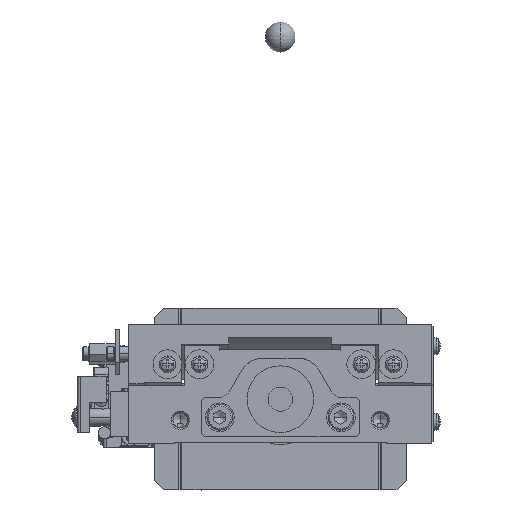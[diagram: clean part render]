
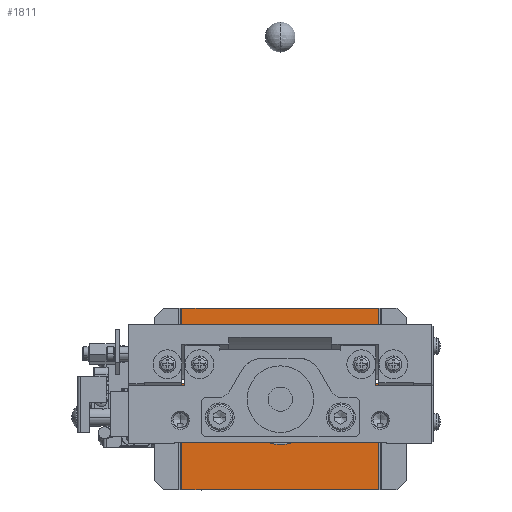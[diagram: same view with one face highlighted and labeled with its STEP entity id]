
A CAD part, left-side view. The second image highlights one B-rep face of the part: STEP entity #1811.
In plain terms, the highlighted planar face has unit normal (-1, 0, 0).
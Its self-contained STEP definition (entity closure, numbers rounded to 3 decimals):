
#1811=ADVANCED_FACE('',(#20746,#20747),#20745,.T.);
#20745=PLANE('',#51421);
#20746=FACE_OUTER_BOUND('',#51422,.T.);
#20747=FACE_BOUND('',#51423,.T.);
#51418=CARTESIAN_POINT('',(86.,-39.,50.5));
#51419=DIRECTION('',(-1.,0.,0.));
#51420=DIRECTION('',(0.,1.,0.));
#51421=AXIS2_PLACEMENT_3D('',#51418,#51419,#51420);
#51422=EDGE_LOOP('',(#73437,#73438,#73439,#73440,#73441,#73442,#73443,#73444,#73445,#73446,#73447,#73448,#73449,#73450,#73451,#73452));
#51423=EDGE_LOOP('',(#73453,#73454));
#73437=ORIENTED_EDGE('',*,*,#88030,.F.);
#73438=ORIENTED_EDGE('',*,*,#88109,.T.);
#73439=ORIENTED_EDGE('',*,*,#88110,.T.);
#73440=ORIENTED_EDGE('',*,*,#88028,.F.);
#73441=ORIENTED_EDGE('',*,*,#87069,.F.);
#73442=ORIENTED_EDGE('',*,*,#88046,.T.);
#73443=ORIENTED_EDGE('',*,*,#88111,.T.);
#73444=ORIENTED_EDGE('',*,*,#88112,.T.);
#73445=ORIENTED_EDGE('',*,*,#88048,.T.);
#73446=ORIENTED_EDGE('',*,*,#88113,.T.);
#73447=ORIENTED_EDGE('',*,*,#88114,.T.);
#73448=ORIENTED_EDGE('',*,*,#88041,.T.);
#73449=ORIENTED_EDGE('',*,*,#87035,.T.);
#73450=ORIENTED_EDGE('',*,*,#88115,.F.);
#73451=ORIENTED_EDGE('',*,*,#88116,.T.);
#73452=ORIENTED_EDGE('',*,*,#88117,.T.);
#73453=ORIENTED_EDGE('',*,*,#88118,.T.);
#73454=ORIENTED_EDGE('',*,*,#88119,.T.);
#87035=EDGE_CURVE('',#116568,#116561,#116569,.T.);
#87069=EDGE_CURVE('',#116793,#116800,#116801,.T.);
#88028=EDGE_CURVE('',#116800,#123228,#123229,.T.);
#88030=EDGE_CURVE('',#123235,#123242,#123243,.T.);
#88041=EDGE_CURVE('',#123313,#116568,#123314,.T.);
#88046=EDGE_CURVE('',#116793,#123345,#123346,.T.);
#88048=EDGE_CURVE('',#123359,#123352,#123360,.T.);
#88109=EDGE_CURVE('',#123235,#123764,#123765,.T.);
#88110=EDGE_CURVE('',#123764,#123228,#123771,.T.);
#88111=EDGE_CURVE('',#123345,#123777,#123778,.T.);
#88112=EDGE_CURVE('',#123777,#123359,#123784,.T.);
#88113=EDGE_CURVE('',#123352,#123790,#123791,.T.);
#88114=EDGE_CURVE('',#123790,#123313,#123797,.T.);
#88115=EDGE_CURVE('',#123803,#116561,#123804,.T.);
#88116=EDGE_CURVE('',#123803,#123810,#123811,.T.);
#88117=EDGE_CURVE('',#123810,#123242,#123817,.T.);
#88118=EDGE_CURVE('',#123823,#123824,#123825,.T.);
#88119=EDGE_CURVE('',#123824,#123823,#123831,.T.);
#116561=VERTEX_POINT('',#170172);
#116568=VERTEX_POINT('',#170176);
#116569=LINE('',#170177,#170178);
#116793=VERTEX_POINT('',#170304);
#116800=VERTEX_POINT('',#170308);
#116801=LINE('',#170309,#170310);
#123228=VERTEX_POINT('',#174197);
#123229=LINE('',#174198,#174199);
#123235=VERTEX_POINT('',#174201);
#123242=VERTEX_POINT('',#174205);
#123243=LINE('',#174206,#174207);
#123313=VERTEX_POINT('',#174243);
#123314=LINE('',#174244,#174245);
#123345=VERTEX_POINT('',#174260);
#123346=LINE('',#174261,#174262);
#123352=VERTEX_POINT('',#174264);
#123359=VERTEX_POINT('',#174268);
#123360=LINE('',#174269,#174270);
#123764=VERTEX_POINT('',#174550);
#123765=CIRCLE('',#174554,6.);
#123771=CIRCLE('',#174558,6.);
#123777=VERTEX_POINT('',#174559);
#123778=CIRCLE('',#174563,6.);
#123784=CIRCLE('',#174567,6.);
#123790=VERTEX_POINT('',#174568);
#123791=CIRCLE('',#174572,4.5);
#123797=CIRCLE('',#174576,4.5);
#123803=VERTEX_POINT('',#174577);
#123804=LINE('',#174578,#174579);
#123810=VERTEX_POINT('',#174581);
#123811=CIRCLE('',#174585,4.5);
#123817=CIRCLE('',#174589,4.5);
#123823=VERTEX_POINT('',#174590);
#123824=VERTEX_POINT('',#174591);
#123825=CIRCLE('',#174595,15.);
#123831=CIRCLE('',#174599,15.);
#170172=CARTESIAN_POINT('',(86.,32.5,44.5));
#170176=CARTESIAN_POINT('',(86.,-32.5,44.5));
#170177=CARTESIAN_POINT('',(86.,-32.5,44.5));
#170178=VECTOR('',#170179,65.);
#170179=DIRECTION('',(0.,1.,0.));
#170304=CARTESIAN_POINT('',(86.,-32.5,-15.5));
#170308=CARTESIAN_POINT('',(86.,32.5,-15.5));
#170309=CARTESIAN_POINT('',(86.,-32.5,-15.5));
#170310=VECTOR('',#170311,65.);
#170311=DIRECTION('',(0.,1.,0.));
#174197=CARTESIAN_POINT('',(86.,32.5,1.521));
#174198=CARTESIAN_POINT('',(86.,32.5,-15.5));
#174199=VECTOR('',#174200,17.021);
#174200=DIRECTION('',(0.,0.,1.));
#174201=CARTESIAN_POINT('',(86.,32.5,13.479));
#174205=CARTESIAN_POINT('',(86.,32.5,19.528));
#174206=CARTESIAN_POINT('',(86.,32.5,13.479));
#174207=VECTOR('',#174208,6.049);
#174208=DIRECTION('',(0.,0.,1.));
#174243=CARTESIAN_POINT('',(86.,-32.5,28.472));
#174244=CARTESIAN_POINT('',(86.,-32.5,28.472));
#174245=VECTOR('',#174246,16.028);
#174246=DIRECTION('',(0.,0.,1.));
#174260=CARTESIAN_POINT('',(86.,-32.5,1.521));
#174261=CARTESIAN_POINT('',(86.,-32.5,-15.5));
#174262=VECTOR('',#174263,17.021);
#174263=DIRECTION('',(0.,0.,1.));
#174264=CARTESIAN_POINT('',(86.,-32.5,19.528));
#174268=CARTESIAN_POINT('',(86.,-32.5,13.479));
#174269=CARTESIAN_POINT('',(86.,-32.5,13.479));
#174270=VECTOR('',#174271,6.049);
#174271=DIRECTION('',(0.,0.,1.));
#174550=CARTESIAN_POINT('',(86.,27.,7.5));
#174551=CARTESIAN_POINT('',(86.,33.,7.5));
#174552=DIRECTION('',(1.,0.,0.));
#174553=DIRECTION('',(0.,1.,0.));
#174554=AXIS2_PLACEMENT_3D('',#174551,#174552,#174553);
#174555=CARTESIAN_POINT('',(86.,33.,7.5));
#174556=DIRECTION('',(1.,0.,0.));
#174557=DIRECTION('',(0.,1.,0.));
#174558=AXIS2_PLACEMENT_3D('',#174555,#174556,#174557);
#174559=CARTESIAN_POINT('',(86.,-27.,7.5));
#174560=CARTESIAN_POINT('',(86.,-33.,7.5));
#174561=DIRECTION('',(1.,0.,0.));
#174562=DIRECTION('',(0.,0.083,-0.997));
#174563=AXIS2_PLACEMENT_3D('',#174560,#174561,#174562);
#174564=CARTESIAN_POINT('',(86.,-33.,7.5));
#174565=DIRECTION('',(1.,0.,0.));
#174566=DIRECTION('',(0.,0.083,-0.997));
#174567=AXIS2_PLACEMENT_3D('',#174564,#174565,#174566);
#174568=CARTESIAN_POINT('',(86.,-27.5,24.));
#174569=CARTESIAN_POINT('',(86.,-32.,24.));
#174570=DIRECTION('',(1.,0.,0.));
#174571=DIRECTION('',(0.,-0.111,-0.994));
#174572=AXIS2_PLACEMENT_3D('',#174569,#174570,#174571);
#174573=CARTESIAN_POINT('',(86.,-32.,24.));
#174574=DIRECTION('',(1.,0.,0.));
#174575=DIRECTION('',(0.,-0.111,-0.994));
#174576=AXIS2_PLACEMENT_3D('',#174573,#174574,#174575);
#174577=CARTESIAN_POINT('',(86.,32.5,28.472));
#174578=CARTESIAN_POINT('',(86.,32.5,28.472));
#174579=VECTOR('',#174580,16.028);
#174580=DIRECTION('',(0.,0.,1.));
#174581=CARTESIAN_POINT('',(86.,27.5,24.));
#174582=CARTESIAN_POINT('',(86.,32.,24.));
#174583=DIRECTION('',(1.,0.,0.));
#174584=DIRECTION('',(0.,1.,0.));
#174585=AXIS2_PLACEMENT_3D('',#174582,#174583,#174584);
#174586=CARTESIAN_POINT('',(86.,32.,24.));
#174587=DIRECTION('',(1.,0.,0.));
#174588=DIRECTION('',(0.,1.,0.));
#174589=AXIS2_PLACEMENT_3D('',#174586,#174587,#174588);
#174590=CARTESIAN_POINT('',(86.,-15.,14.5));
#174591=CARTESIAN_POINT('',(86.,15.,14.5));
#174592=CARTESIAN_POINT('',(86.,0.,14.5));
#174593=DIRECTION('',(1.,0.,0.));
#174594=DIRECTION('',(0.,-1.,0.));
#174595=AXIS2_PLACEMENT_3D('',#174592,#174593,#174594);
#174596=CARTESIAN_POINT('',(86.,0.,14.5));
#174597=DIRECTION('',(1.,0.,0.));
#174598=DIRECTION('',(0.,-1.,0.));
#174599=AXIS2_PLACEMENT_3D('',#174596,#174597,#174598);
